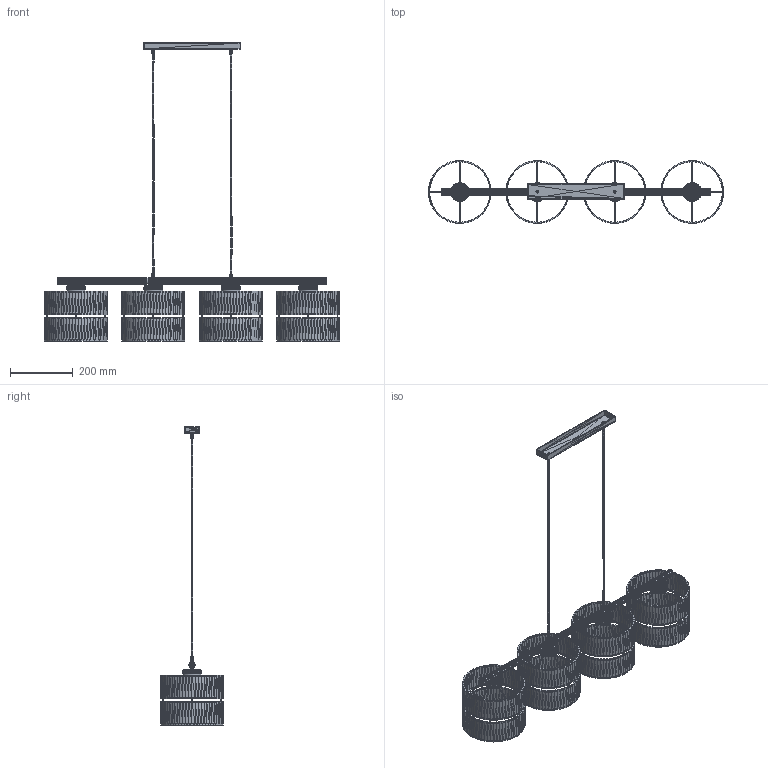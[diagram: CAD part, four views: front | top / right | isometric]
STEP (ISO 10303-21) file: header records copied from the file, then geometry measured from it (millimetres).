
FILE_DESCRIPTION(('FreeCAD Model'),'2;1');
FILE_NAME('Open CASCADE Shape Model','2022-11-30T08:41:45',('Author'),( ''),'Open CASCADE STEP processor 7.6','FreeCAD','Unknown');
FILE_SCHEMA(('AUTOMOTIVE_DESIGN { 1 0 10303 214 1 1 1 1 }'));
Length unit declared in the file: millimetre
Products named in the file (172): Unnamed; Mesh162 (Solid); Mesh001001 (Solid); Mesh002001 (Solid); Mesh003001 (Solid); Mesh004001 (Solid); Mesh005001 (Solid); Mesh006001 (Solid); Mesh007001 (Solid); Mesh008001 (Solid); Mesh009001 (Solid); Mesh010001 (Solid); Mesh011001 (Solid); Mesh012001 (Solid); Mesh013001 (Solid); Mesh015001 (Solid); Mesh016001 (Solid); Mesh017001 (Solid); Mesh018001 (Solid); Mesh019001 (Solid); Mesh020001 (Solid); Mesh021001 (Solid); Mesh022001 (Solid); Mesh023001 (Solid); Mesh024001 (Solid); Mesh025001 (Solid); Mesh026001 (Solid); Mesh027001 (Solid); Mesh028001 (Solid); Mesh029001 (Solid); Mesh030001 (Solid); Mesh031001 (Solid); Mesh032001 (Solid); Mesh033001 (Solid); Mesh034001 (Solid); Mesh035001 (Solid); Mesh036001 (Solid); Mesh037001 (Solid); Mesh038001 (Solid); Mesh039001 (Solid)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
Assembly tree (171 placements, depth 2):
  Unnamed
    Mesh162 (Solid)
    Mesh001001 (Solid)
    Mesh002001 (Solid)
    Mesh003001 (Solid)
    Mesh004001 (Solid)
    Mesh005001 (Solid)
    Mesh006001 (Solid)
    Mesh007001 (Solid)
    Mesh008001 (Solid)
    Mesh009001 (Solid)
    Mesh010001 (Solid)
    Mesh011001 (Solid)
    Mesh012001 (Solid)
    Mesh013001 (Solid)
    Mesh015001 (Solid)
    Mesh016001 (Solid)
    Mesh017001 (Solid)
    Mesh018001 (Solid)
    Mesh019001 (Solid)
    Mesh020001 (Solid)
    Mesh021001 (Solid)
    Mesh022001 (Solid)
    Mesh023001 (Solid)
    Mesh024001 (Solid)
    Mesh025001 (Solid)
    Mesh026001 (Solid)
    Mesh027001 (Solid)
    Mesh028001 (Solid)
    Mesh029001 (Solid)
    Mesh030001 (Solid)
    Mesh031001 (Solid)
    Mesh032001 (Solid)
    Mesh033001 (Solid)
    Mesh034001 (Solid)
    Mesh035001 (Solid)
    Mesh036001 (Solid)
    Mesh037001 (Solid)
    Mesh038001 (Solid)
    Mesh039001 (Solid)
    Mesh040001 (Solid)
    Mesh041001 (Solid)
    Mesh042001 (Solid)
    Mesh043001 (Solid)
    Mesh044001 (Solid)
    Mesh045001 (Solid)
    Mesh046001 (Solid)
    Mesh047001 (Solid)
    Mesh048001 (Solid)
    Mesh049001 (Solid)
    Mesh050001 (Solid)
    Mesh052001 (Solid)
    Mesh053001 (Solid)
    Mesh054001 (Solid)
    Mesh055001 (Solid)
    Mesh056001 (Solid)
    Mesh057001 (Solid)
    Mesh058001 (Solid)
    Mesh059001 (Solid)
    Mesh060001 (Solid)
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Bounding box: 940 x 200 x 950.85 mm (x, y, z)
Volume: 846108.7 mm3; surface area: 852590.4 mm2
Topology: 117 solids, 359 shells, 37830 faces, 59010 edges, 21420 vertices
Faces by surface type: plane 37830
Entity records: 1498806 total; most frequent: DIRECTION 248500, CARTESIAN_POINT 231614, LINE 171856, VECTOR 171856, ORIENTED_EDGE 114450, PCURVE 112670, DEFINITIONAL_REPRESENTATION 112670, EDGE_CURVE 59186
